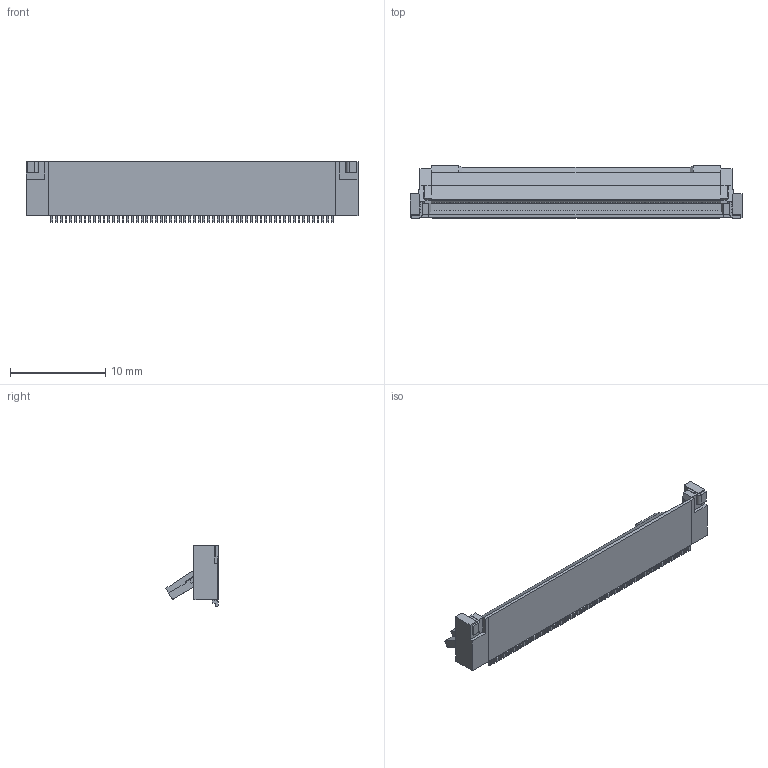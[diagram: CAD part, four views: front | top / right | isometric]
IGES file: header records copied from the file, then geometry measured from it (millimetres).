
Start section: SolidWorks IGES file using analytic representation for surfaces
Global section: file name: C:\3dworks\金子\MINIFLEX5-FF\STEP再作成\close 最終\IGES\20647-060E-01 ASS'Y ACT OPEN IGES R2 ALL.IGS; native system: SolidWorks 2014; preprocessor: SolidWorks 2014; author: ieng2-003; date: 161003.235158; units: millimetre
Bounding box: 34.9 x 5.51 x 6.4 mm (x, y, z)
Surface area: 939.6 mm2 (no closed solid volume)
Topology: 0 solids, 0 shells, 2070 faces, 13682 edges, 13682 vertices
Faces by surface type: bspline 1219, revolution 851
